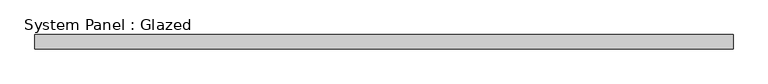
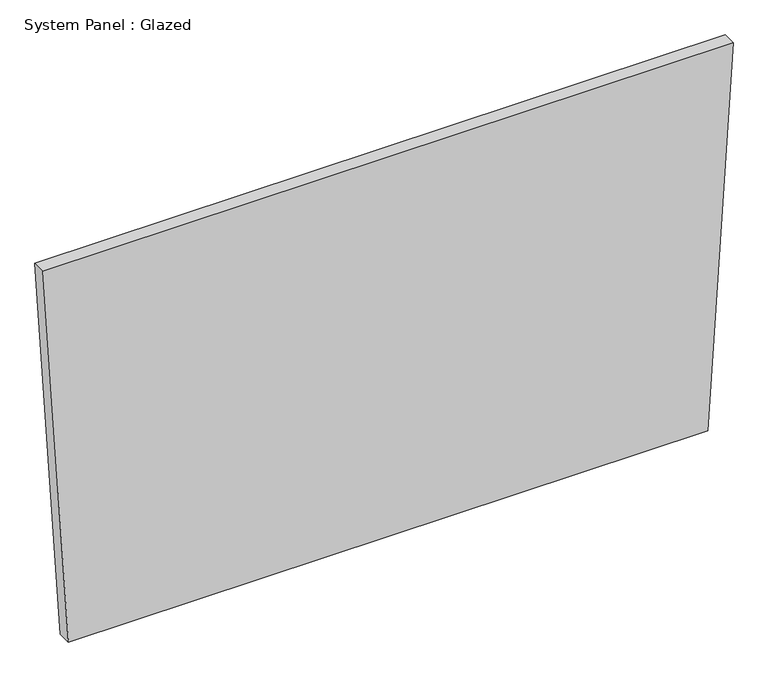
"""IFC4 building model written with IfcOpenShell, lengths in millimetres: plate geometry, System Panel : Glazed."""

from ifc_helpers import new_model, si_unit, frame, origin, place, context, project, spatial, polyline, outline, extrude, source, transform, mapped, element, save


def system_panel_glazed_36dbcd62(model_context):
    return source(origin(), model_context, "Body", "SweptSolid", [
        extrude(outline(polyline([(727.0156762, -625.5694439), (0.0, -579.6691244), (0.0010283, 579.6692029), (727.015461, 625.5694439), (727.0156762, -625.5694439)])), frame((0.0, 19.05, 0.0), z_axis=(0.0, 1.0, 0.0), x_axis=(0.0, 0.0, 1.0)), (0.0, 0.0, 1.0), 25.4),
    ])


if __name__ == "__main__":
    model = new_model("IFC4")
    model_context = context("Model", 3, world=origin())
    ifc_project = project(units=[si_unit("LENGTHUNIT", "METRE", prefix="MILLI")], contexts=[model_context])
    site = spatial("IfcSite", under=ifc_project)
    building = spatial("IfcBuilding", under=site)
    placement = place(None, origin())
    system_panel_glazed_shape = system_panel_glazed_36dbcd62(model_context)
    element("IfcPlate", 1, ObjectType="System Panel : Glazed", at=placement, inside=building, context=model_context, shape_type="MappedRepresentation", body=[
        mapped(system_panel_glazed_shape, transform((0.0, 0.0, 0.0), x_axis=(1.0, 0.0, 0.0), y_axis=(0.0, 1.0, 0.0), z_axis=(0.0, 0.0, 1.0))),
    ])
    save(model, "model.ifc")
